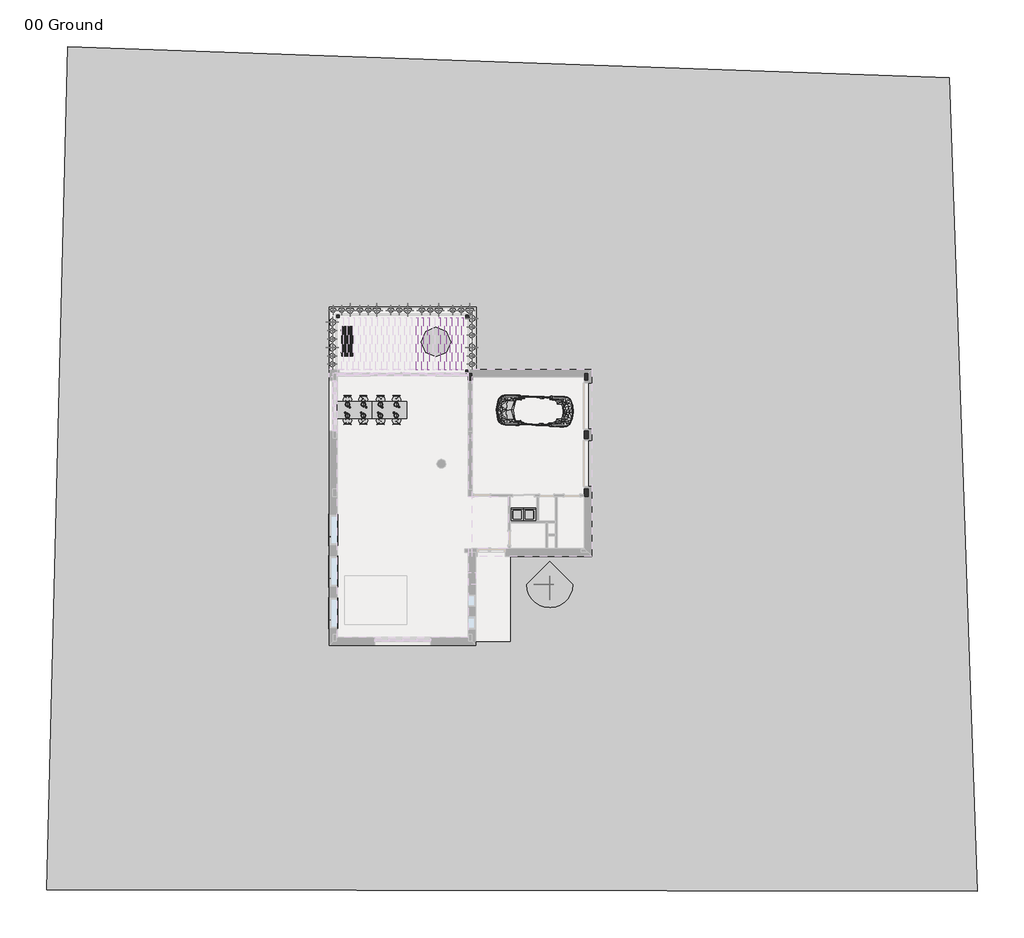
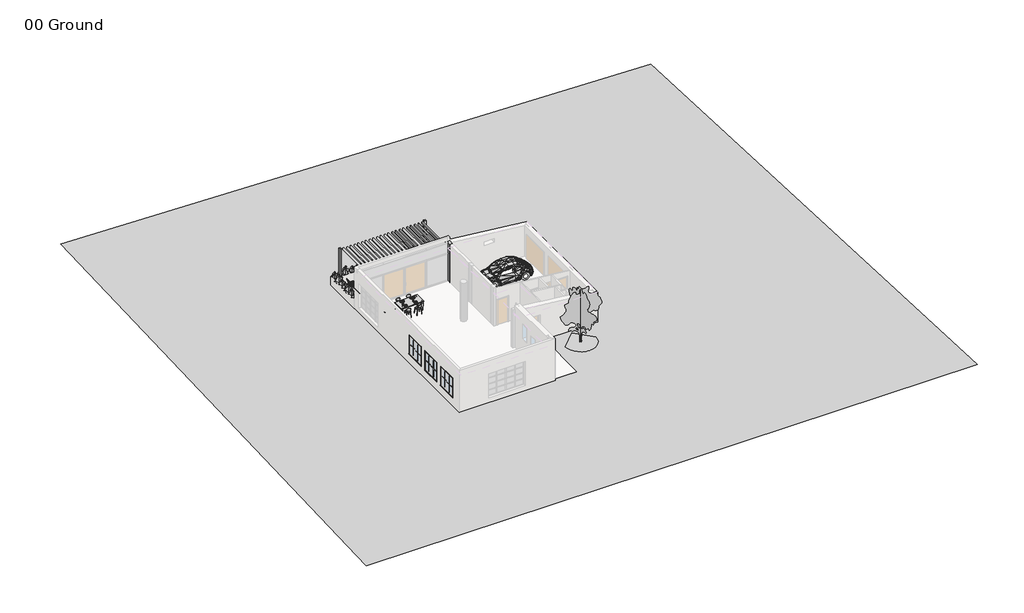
# One storey, part 4 of 4: 32 proxies, 29 geographic elements, 11 furniture elements, 8 beams, 7 columns.
"""IFC4 building model written with IfcOpenShell, lengths in millimetres."""

from ifc_helpers import new_model, si_unit, origin, origin_with_axes, place, context, project, spatial, polyline, outline, extrude, faceted_brep, triangles, transform, mapped, element, save
from components import m_glulam_southern_pine_76x140_5a5c9036, m_muntin_pattern_2x2_m_muntin_pattern_2x2_30659562, m_rpc_beetle_m_rpc_beetle_b6d71803, m_trim_window_exterior_flat_with_sill_22923e22, m_trim_window_interior_flat_picture_frame_2e224720, washer_1_nz_635_x_635_x_890mm_ea8aa6a1, water_glass_water_glass_b6dd9f63, water_glass_water_glass_9b9a4646, white_porcelain_plate_fine_china_plate_a2477348, white_porcelain_plate_fine_china_plate_4e427850, m_glulam_southern_pine_column_127x140_dd4b0262, dining_chair_3_dining_chair_3_7a8d451b, dining_chair_3_dining_chair_3_6df3cbc4, m_table_dining_round_w_chairs_1525mm_diameter_e8096f67, table_dining_01_m_1800_x_900_mm_da953b87, m_rpc_tree_deciduous_japanese_cherry_4_5_meters_cd2ce576, rpc_plant_tropical_9b0843ec, rpc_plant_tropical_418e7fe6, geographic_element_864e469f

model = new_model("IFC4")

# Units and contexts
model_context = context("Model", 3, world=origin())
ifc_project = project(units=[si_unit("LENGTHUNIT", "METRE", prefix="MILLI")], contexts=[model_context])

# Site, building, storey
site = spatial("IfcSite", under=ifc_project)
building = spatial("IfcBuilding", under=site)
storey = spatial("IfcBuildingStorey", under=building, Name="00 Ground", Elevation=0.0)

# Beams
placement = place(None, origin())
m_glulam_southern_pine_76x140_shape = m_glulam_southern_pine_76x140_5a5c9036(model_context)
element("IfcBeam", 1, ObjectType="M_Glulam-Southern Pine : 76X140", at=placement, inside=storey, context=model_context, shape_type="MappedRepresentation", body=[
    mapped(m_glulam_southern_pine_76x140_shape, transform((-1618.8451478, 7837.2898352, 3130.0), x_axis=(0.0, -1.0, 0.0), y_axis=(1.0, 0.0, 0.0), z_axis=(0.0, 0.0, 1.0))),
])
element("IfcBeam", 2, ObjectType="M_Glulam-Southern Pine : 76X140", at=placement, inside=storey, context=model_context, shape_type="MappedRepresentation", body=[
    mapped(m_glulam_southern_pine_76x140_shape, transform((-1915.1494956, 7837.2898352, 3130.0), x_axis=(0.0, -1.0, 0.0), y_axis=(1.0, 0.0, 0.0), z_axis=(0.0, 0.0, 1.0))),
])
element("IfcBeam", 3, ObjectType="M_Glulam-Southern Pine : 76X140", at=placement, inside=storey, context=model_context, shape_type="MappedRepresentation", body=[
    mapped(m_glulam_southern_pine_76x140_shape, transform((-2211.4538434, 7837.2898352, 3130.0), x_axis=(0.0, -1.0, 0.0), y_axis=(1.0, 0.0, 0.0), z_axis=(0.0, 0.0, 1.0))),
])
element("IfcBeam", 4, ObjectType="M_Glulam-Southern Pine : 76X140", at=placement, inside=storey, context=model_context, shape_type="MappedRepresentation", body=[
    mapped(m_glulam_southern_pine_76x140_shape, transform((-2507.7581912, 7837.2898352, 3130.0), x_axis=(0.0, -1.0, 0.0), y_axis=(1.0, 0.0, 0.0), z_axis=(0.0, 0.0, 1.0))),
])
element("IfcBeam", 5, ObjectType="M_Glulam-Southern Pine : 76X140", at=placement, inside=storey, context=model_context, shape_type="MappedRepresentation", body=[
    mapped(m_glulam_southern_pine_76x140_shape, transform((-2804.0625391, 7837.2898352, 3130.0), x_axis=(0.0, -1.0, 0.0), y_axis=(1.0, 0.0, 0.0), z_axis=(0.0, 0.0, 1.0))),
])
element("IfcBeam", 6, ObjectType="M_Glulam-Southern Pine : 76X140", at=placement, inside=storey, context=model_context, shape_type="MappedRepresentation", body=[
    mapped(m_glulam_southern_pine_76x140_shape, transform((-3396.6712347, 7837.2898352, 3130.0), x_axis=(0.0, -1.0, 0.0), y_axis=(1.0, 0.0, 0.0), z_axis=(0.0, 0.0, 1.0))),
])
element("IfcBeam", 7, ObjectType="M_Glulam-Southern Pine : 76X140", at=placement, inside=storey, context=model_context, shape_type="MappedRepresentation", body=[
    mapped(m_glulam_southern_pine_76x140_shape, transform((-3692.9755825, 7837.2898352, 3130.0), x_axis=(0.0, -1.0, 0.0), y_axis=(1.0, 0.0, 0.0), z_axis=(0.0, 0.0, 1.0))),
])
element("IfcBeam", 8, ObjectType="M_Glulam-Southern Pine : 76X140", at=placement, inside=storey, context=model_context, shape_type="MappedRepresentation", body=[
    mapped(m_glulam_southern_pine_76x140_shape, transform((-3989.2799304, 7837.2898352, 3130.0), x_axis=(0.0, -1.0, 0.0), y_axis=(1.0, 0.0, 0.0), z_axis=(0.0, 0.0, 1.0))),
])

# Proxies
element("IfcBuildingElementProxy", 9, Name="Building Element Proxy", at=placement, inside=storey, context=model_context, shape_type="Tessellation", body=[
    triangles([(-23129.6788879, -20391.19953, 0.0), (24993.4581482, -20476.3734009, 0.0), (23545.5046692, 21599.4304321, 0.0), (-22022.4208923, 23217.7316528, 0.0)], [[4, 1, 3], [2, 3, 1]], closed=False),
])
m_muntin_pattern_2x2_m_muntin_pattern_2x2_shape = m_muntin_pattern_2x2_m_muntin_pattern_2x2_30659562(model_context)
element("IfcBuildingElementProxy", 10, Name="M_Muntin Pattern_2x2 : M_Muntin Pattern_2x2", ObjectType="M_Muntin Pattern_2x2 : M_Muntin Pattern_2x2", at=placement, inside=storey, context=model_context, shape_type="MappedRepresentation", body=[
    mapped(m_muntin_pattern_2x2_m_muntin_pattern_2x2_shape, transform((-8453.5657999, -5733.3476648, 882.55), x_axis=(0.0, 1.0, 0.0), y_axis=(-1.0, 0.0, 0.0), z_axis=(0.0, 0.0, 1.0))),
])
element("IfcBuildingElementProxy", 11, Name="M_Muntin Pattern_2x2 : M_Muntin Pattern_2x2", ObjectType="M_Muntin Pattern_2x2 : M_Muntin Pattern_2x2", at=placement, inside=storey, context=model_context, shape_type="MappedRepresentation", body=[
    mapped(m_muntin_pattern_2x2_m_muntin_pattern_2x2_shape, transform((-8498.0157999, -6442.0726648, 882.55), x_axis=(0.0, 1.0, 0.0), y_axis=(-1.0, 0.0, 0.0), z_axis=(0.0, 0.0, 1.0))),
])
element("IfcBuildingElementProxy", 12, Name="M_Muntin Pattern_2x2 : M_Muntin Pattern_2x2", ObjectType="M_Muntin Pattern_2x2 : M_Muntin Pattern_2x2", at=placement, inside=storey, context=model_context, shape_type="MappedRepresentation", body=[
    mapped(m_muntin_pattern_2x2_m_muntin_pattern_2x2_shape, transform((-8453.5657999, -3583.3476648, 882.55), x_axis=(0.0, 1.0, 0.0), y_axis=(-1.0, 0.0, 0.0), z_axis=(0.0, 0.0, 1.0))),
])
element("IfcBuildingElementProxy", 13, Name="M_Muntin Pattern_2x2 : M_Muntin Pattern_2x2", ObjectType="M_Muntin Pattern_2x2 : M_Muntin Pattern_2x2", at=placement, inside=storey, context=model_context, shape_type="MappedRepresentation", body=[
    mapped(m_muntin_pattern_2x2_m_muntin_pattern_2x2_shape, transform((-8498.0157999, -4292.0726648, 882.55), x_axis=(0.0, 1.0, 0.0), y_axis=(-1.0, 0.0, 0.0), z_axis=(0.0, 0.0, 1.0))),
])
element("IfcBuildingElementProxy", 14, Name="M_Muntin Pattern_2x2 : M_Muntin Pattern_2x2", ObjectType="M_Muntin Pattern_2x2 : M_Muntin Pattern_2x2", at=placement, inside=storey, context=model_context, shape_type="MappedRepresentation", body=[
    mapped(m_muntin_pattern_2x2_m_muntin_pattern_2x2_shape, transform((-8453.5657999, -1433.3476648, 882.55), x_axis=(0.0, 1.0, 0.0), y_axis=(-1.0, 0.0, 0.0), z_axis=(0.0, 0.0, 1.0))),
])
element("IfcBuildingElementProxy", 15, Name="M_Muntin Pattern_2x2 : M_Muntin Pattern_2x2", ObjectType="M_Muntin Pattern_2x2 : M_Muntin Pattern_2x2", at=placement, inside=storey, context=model_context, shape_type="MappedRepresentation", body=[
    mapped(m_muntin_pattern_2x2_m_muntin_pattern_2x2_shape, transform((-8498.0157999, -2142.0726648, 882.55), x_axis=(0.0, 1.0, 0.0), y_axis=(-1.0, 0.0, 0.0), z_axis=(0.0, 0.0, 1.0))),
])
m_rpc_beetle_m_rpc_beetle_shape = m_rpc_beetle_m_rpc_beetle_b6d71803(model_context)
element("IfcBuildingElementProxy", 16, Name="M_RPC Beetle : M_RPC Beetle", ObjectType="M_RPC Beetle : M_RPC Beetle", at=placement, inside=storey, context=model_context, shape_type="MappedRepresentation", body=[
    mapped(m_rpc_beetle_m_rpc_beetle_shape, transform((3335.3688929, 4337.8164199, 0.0), x_axis=(0.03176173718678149, 0.9994954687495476, 0.0), y_axis=(-0.9994954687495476, 0.03176173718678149, 0.0), z_axis=(0.0, 0.0, 1.0))),
])
m_trim_window_exterior_flat_with_sill_shape = m_trim_window_exterior_flat_with_sill_22923e22(model_context)
element("IfcBuildingElementProxy", 17, Name="M_Trim-Window-Exterior-Flat : with Sill", ObjectType="M_Trim-Window-Exterior-Flat : with Sill", at=placement, inside=storey, context=model_context, shape_type="MappedRepresentation", body=[
    mapped(m_trim_window_exterior_flat_with_sill_shape, transform((-8507.5407999, -6087.7101648, 2300.0), x_axis=(0.0, -1.0, 0.0), y_axis=(0.0, 0.0, 1.0), z_axis=(-1.0, 0.0, 0.0))),
])
element("IfcBuildingElementProxy", 18, Name="M_Trim-Window-Exterior-Flat : with Sill", ObjectType="M_Trim-Window-Exterior-Flat : with Sill", at=placement, inside=storey, context=model_context, shape_type="MappedRepresentation", body=[
    mapped(m_trim_window_exterior_flat_with_sill_shape, transform((-8507.5407999, -3937.7101648, 2300.0), x_axis=(0.0, -1.0, 0.0), y_axis=(0.0, 0.0, 1.0), z_axis=(-1.0, 0.0, 0.0))),
])
element("IfcBuildingElementProxy", 19, Name="M_Trim-Window-Exterior-Flat : with Sill", ObjectType="M_Trim-Window-Exterior-Flat : with Sill", at=placement, inside=storey, context=model_context, shape_type="MappedRepresentation", body=[
    mapped(m_trim_window_exterior_flat_with_sill_shape, transform((-8507.5407999, -1787.7101648, 2300.0), x_axis=(0.0, -1.0, 0.0), y_axis=(0.0, 0.0, 1.0), z_axis=(-1.0, 0.0, 0.0))),
])
m_trim_window_interior_flat_picture_frame_shape = m_trim_window_interior_flat_picture_frame_2e224720(model_context)
element("IfcBuildingElementProxy", 20, Name="M_Trim-Window-Interior-Flat : Picture Frame", ObjectType="M_Trim-Window-Interior-Flat : Picture Frame", at=placement, inside=storey, context=model_context, shape_type="MappedRepresentation", body=[
    mapped(m_trim_window_interior_flat_picture_frame_shape, transform((-8109.5407999, -6087.7101648, 2300.0), x_axis=(0.0, 1.0, 0.0), y_axis=(0.0, 0.0, 1.0), z_axis=(1.0, 0.0, 0.0))),
])
element("IfcBuildingElementProxy", 21, Name="M_Trim-Window-Interior-Flat : Picture Frame", ObjectType="M_Trim-Window-Interior-Flat : Picture Frame", at=placement, inside=storey, context=model_context, shape_type="MappedRepresentation", body=[
    mapped(m_trim_window_interior_flat_picture_frame_shape, transform((-8109.5407999, -3937.7101648, 2300.0), x_axis=(0.0, 1.0, 0.0), y_axis=(0.0, 0.0, 1.0), z_axis=(1.0, 0.0, 0.0))),
])
element("IfcBuildingElementProxy", 22, Name="M_Trim-Window-Interior-Flat : Picture Frame", ObjectType="M_Trim-Window-Interior-Flat : Picture Frame", at=placement, inside=storey, context=model_context, shape_type="MappedRepresentation", body=[
    mapped(m_trim_window_interior_flat_picture_frame_shape, transform((-8109.5407999, -1787.7101648, 2300.0), x_axis=(0.0, 1.0, 0.0), y_axis=(0.0, 0.0, 1.0), z_axis=(1.0, 0.0, 0.0))),
])
washer_1_nz_635_x_635_x_890mm_shape = washer_1_nz_635_x_635_x_890mm_ea8aa6a1(model_context)
element("IfcBuildingElementProxy", 23, Name="Washer 1 (NZ) : 635 x 635 x 890mm", ObjectType="Washer 1 (NZ) : 635 x 635 x 890mm", at=placement, inside=storey, context=model_context, shape_type="MappedRepresentation", body=[
    mapped(washer_1_nz_635_x_635_x_890mm_shape, transform((802.8947027, -1253.3971499, 0.0), x_axis=(1.0, 0.0, 0.0), y_axis=(0.0, 1.0, 0.0), z_axis=(0.0, 0.0, 1.0))),
])
element("IfcBuildingElementProxy", 24, Name="Washer 1 (NZ) : 635 x 635 x 890mm", ObjectType="Washer 1 (NZ) : 635 x 635 x 890mm", at=placement, inside=storey, context=model_context, shape_type="MappedRepresentation", body=[
    mapped(washer_1_nz_635_x_635_x_890mm_shape, transform((1437.8947027, -1253.3971499, 0.0), x_axis=(1.0, 0.0, 0.0), y_axis=(0.0, 1.0, 0.0), z_axis=(0.0, 0.0, 1.0))),
])
water_glass_water_glass_shape = water_glass_water_glass_b6dd9f63(model_context)
element("IfcBuildingElementProxy", 25, Name="Water Glass : Water Glass", ObjectType="Water Glass : Water Glass", at=placement, inside=storey, context=model_context, shape_type="MappedRepresentation", body=[
    mapped(water_glass_water_glass_shape, transform((-5166.4212773, 4276.4174751, 765.0), x_axis=(0.0, 1.0, 0.0), y_axis=(-1.0, 0.0, 0.0), z_axis=(0.0, 0.0, 1.0))),
])
element("IfcBuildingElementProxy", 26, Name="Water Glass : Water Glass", ObjectType="Water Glass : Water Glass", at=placement, inside=storey, context=model_context, shape_type="MappedRepresentation", body=[
    mapped(water_glass_water_glass_shape, transform((-5986.4212773, 4276.4174751, 765.0), x_axis=(0.0, 1.0, 0.0), y_axis=(-1.0, 0.0, 0.0), z_axis=(0.0, 0.0, 1.0))),
])
element("IfcBuildingElementProxy", 27, Name="Water Glass : Water Glass", ObjectType="Water Glass : Water Glass", at=placement, inside=storey, context=model_context, shape_type="MappedRepresentation", body=[
    mapped(water_glass_water_glass_shape, transform((-6866.4212773, 4276.4174751, 765.0), x_axis=(0.0, 1.0, 0.0), y_axis=(-1.0, 0.0, 0.0), z_axis=(0.0, 0.0, 1.0))),
])
element("IfcBuildingElementProxy", 28, Name="Water Glass : Water Glass", ObjectType="Water Glass : Water Glass", at=placement, inside=storey, context=model_context, shape_type="MappedRepresentation", body=[
    mapped(water_glass_water_glass_shape, transform((-7686.4212773, 4276.4174751, 765.0), x_axis=(0.0, 1.0, 0.0), y_axis=(-1.0, 0.0, 0.0), z_axis=(0.0, 0.0, 1.0))),
])
water_glass_water_glass_2_shape = water_glass_water_glass_9b9a4646(model_context)
element("IfcBuildingElementProxy", 29, Name="Water Glass : Water Glass", ObjectType="Water Glass : Water Glass", at=placement, inside=storey, context=model_context, shape_type="MappedRepresentation", body=[
    mapped(water_glass_water_glass_2_shape, transform((-4907.6566656, 4576.4174751, 765.0), x_axis=(0.0, -1.0, 0.0), y_axis=(1.0, 0.0, 0.0), z_axis=(0.0, 0.0, 1.0))),
])
element("IfcBuildingElementProxy", 30, Name="Water Glass : Water Glass", ObjectType="Water Glass : Water Glass", at=placement, inside=storey, context=model_context, shape_type="MappedRepresentation", body=[
    mapped(water_glass_water_glass_2_shape, transform((-5767.6566656, 4556.4174751, 765.0), x_axis=(0.0, -1.0, 0.0), y_axis=(1.0, 0.0, 0.0), z_axis=(0.0, 0.0, 1.0))),
])
element("IfcBuildingElementProxy", 31, Name="Water Glass : Water Glass", ObjectType="Water Glass : Water Glass", at=placement, inside=storey, context=model_context, shape_type="MappedRepresentation", body=[
    mapped(water_glass_water_glass_2_shape, transform((-6607.6566656, 4556.4174751, 765.0), x_axis=(0.0, -1.0, 0.0), y_axis=(1.0, 0.0, 0.0), z_axis=(0.0, 0.0, 1.0))),
])
element("IfcBuildingElementProxy", 32, Name="Water Glass : Water Glass", ObjectType="Water Glass : Water Glass", at=placement, inside=storey, context=model_context, shape_type="MappedRepresentation", body=[
    mapped(water_glass_water_glass_2_shape, transform((-7447.6566656, 4556.4174751, 765.0), x_axis=(0.0, -1.0, 0.0), y_axis=(1.0, 0.0, 0.0), z_axis=(0.0, 0.0, 1.0))),
])
white_porcelain_plate_fine_china_plate_shape = white_porcelain_plate_fine_china_plate_a2477348(model_context)
element("IfcBuildingElementProxy", 33, Name="White Porcelain Plate : Fine China - Plate", ObjectType="White Porcelain Plate : Fine China - Plate", at=placement, inside=storey, context=model_context, shape_type="MappedRepresentation", body=[
    mapped(white_porcelain_plate_fine_china_plate_shape, transform((-5052.8302229, 4126.4174751, 765.0), x_axis=(0.0, 1.0, 0.0), y_axis=(-1.0, 0.0, 0.0), z_axis=(0.0, 0.0, 1.0))),
])
element("IfcBuildingElementProxy", 34, Name="White Porcelain Plate : Fine China - Plate", ObjectType="White Porcelain Plate : Fine China - Plate", at=placement, inside=storey, context=model_context, shape_type="MappedRepresentation", body=[
    mapped(white_porcelain_plate_fine_china_plate_shape, transform((-5872.8302229, 4126.4174751, 765.0), x_axis=(0.0, 1.0, 0.0), y_axis=(-1.0, 0.0, 0.0), z_axis=(0.0, 0.0, 1.0))),
])
element("IfcBuildingElementProxy", 35, Name="White Porcelain Plate : Fine China - Plate", ObjectType="White Porcelain Plate : Fine China - Plate", at=placement, inside=storey, context=model_context, shape_type="MappedRepresentation", body=[
    mapped(white_porcelain_plate_fine_china_plate_shape, transform((-6752.8302229, 4126.4174751, 765.0), x_axis=(0.0, 1.0, 0.0), y_axis=(-1.0, 0.0, 0.0), z_axis=(0.0, 0.0, 1.0))),
])
element("IfcBuildingElementProxy", 36, Name="White Porcelain Plate : Fine China - Plate", ObjectType="White Porcelain Plate : Fine China - Plate", at=placement, inside=storey, context=model_context, shape_type="MappedRepresentation", body=[
    mapped(white_porcelain_plate_fine_china_plate_shape, transform((-7572.8302229, 4126.4174751, 765.0), x_axis=(0.0, 1.0, 0.0), y_axis=(-1.0, 0.0, 0.0), z_axis=(0.0, 0.0, 1.0))),
])
white_porcelain_plate_fine_china_plate_2_shape = white_porcelain_plate_fine_china_plate_4e427850(model_context)
element("IfcBuildingElementProxy", 37, Name="White Porcelain Plate : Fine China - Plate", ObjectType="White Porcelain Plate : Fine China - Plate", at=placement, inside=storey, context=model_context, shape_type="MappedRepresentation", body=[
    mapped(white_porcelain_plate_fine_china_plate_2_shape, transform((-5052.8302229, 4706.4174751, 765.0), x_axis=(0.0, -1.0, 0.0), y_axis=(1.0, 0.0, 0.0), z_axis=(0.0, 0.0, 1.0))),
])
element("IfcBuildingElementProxy", 38, Name="White Porcelain Plate : Fine China - Plate", ObjectType="White Porcelain Plate : Fine China - Plate", at=placement, inside=storey, context=model_context, shape_type="MappedRepresentation", body=[
    mapped(white_porcelain_plate_fine_china_plate_2_shape, transform((-5872.8302229, 4706.4174751, 765.0), x_axis=(0.0, -1.0, 0.0), y_axis=(1.0, 0.0, 0.0), z_axis=(0.0, 0.0, 1.0))),
])
element("IfcBuildingElementProxy", 39, Name="White Porcelain Plate : Fine China - Plate", ObjectType="White Porcelain Plate : Fine China - Plate", at=placement, inside=storey, context=model_context, shape_type="MappedRepresentation", body=[
    mapped(white_porcelain_plate_fine_china_plate_2_shape, transform((-6752.8302229, 4706.4174751, 765.0), x_axis=(0.0, -1.0, 0.0), y_axis=(1.0, 0.0, 0.0), z_axis=(0.0, 0.0, 1.0))),
])
element("IfcBuildingElementProxy", 40, Name="White Porcelain Plate : Fine China - Plate", ObjectType="White Porcelain Plate : Fine China - Plate", at=placement, inside=storey, context=model_context, shape_type="MappedRepresentation", body=[
    mapped(white_porcelain_plate_fine_china_plate_2_shape, transform((-7572.8302229, 4706.4174751, 765.0), x_axis=(0.0, -1.0, 0.0), y_axis=(1.0, 0.0, 0.0), z_axis=(0.0, 0.0, 1.0))),
])

# Columns
element("IfcColumn", 41, ObjectType="M_Concrete-Rectangular-Column : 200 x 400mm", at=placement, inside=storey, context=model_context, shape_type="Brep", body=[
    faceted_brep([(4877.4592001, 6337.2898352, 0.0), (4877.4592001, 5937.2898352, 0.0), (4677.4592001, 5937.2898352, 0.0), (4677.4592001, 6137.2898352, 0.0), (4677.4592001, 6337.2898352, 0.0), (4877.4592001, 6337.2898352, 2519.7413096), (4877.4592001, 5937.2898352, 2519.7413096), (4677.4592001, 5937.2898352, 2519.7413096), (4677.4592001, 6137.2898352, 2519.7413096), (4677.4592001, 6337.2898352, 2519.7413096)], [[[0, 1, 2, 3, 4]], [[5, 6, 1, 0]], [[6, 7, 2, 1]], [[7, 8, 9, 4, 3, 2]], [[9, 5, 0, 4]], [[5, 9, 8, 7, 6]]]),
])
element("IfcColumn", 42, ObjectType="M_Concrete-Rectangular-Column : 200 x 400mm", at=placement, inside=storey, context=model_context, shape_type="Brep", body=[
    faceted_brep([(-1122.5407999, 6337.2898352, 0.0), (-1122.5407999, 6124.2898352, 0.0), (-1122.5407999, 5937.2898352, 0.0), (-1322.5407999, 5937.2898352, 0.0), (-1322.5407999, 6337.2898352, 0.0), (-1122.5407999, 6337.2898352, 3160.0), (-1122.5407999, 6337.2898352, 3200.0), (-1122.5407999, 5937.2898352, 3200.0), (-1322.5407999, 5937.2898352, 3200.0), (-1322.5407999, 6337.2898352, 3200.0), (-1300.0407999, 6337.2898352, 3200.0)], [[[0, 1, 2, 3, 4]], [[2, 1, 0, 5, 6, 7]], [[3, 2, 7, 8]], [[4, 3, 8, 9]], [[0, 4, 9, 10, 6, 5]], [[7, 6, 10, 9, 8]]]),
])
element("IfcColumn", 43, ObjectType="M_Concrete-Rectangular-Column : 200 x 400mm", at=placement, inside=storey, context=model_context, shape_type="SweptSolid", body=[
    extrude(outline(polyline([(4877.4592001, 3337.2898352), (4877.4592001, 2937.2898352), (4677.4592001, 2937.2898352), (4677.4592001, 3337.2898352), (4877.4592001, 3337.2898352)])), origin_with_axes(), (0.0, 0.0, 1.0), 2519.7413096),
])
element("IfcColumn", 44, ObjectType="M_Concrete-Rectangular-Column : 200 x 400mm", at=placement, inside=storey, context=model_context, shape_type="SweptSolid", body=[
    extrude(outline(polyline([(4677.4592001, -62.7101648), (4677.4592001, 337.2898352), (4877.4592001, 337.2898352), (4877.4592001, -62.7101648), (4677.4592001, -62.7101648)])), origin_with_axes(), (0.0, 0.0, 1.0), 2519.7413096),
])
m_glulam_southern_pine_column_127x140_shape = m_glulam_southern_pine_column_127x140_dd4b0262(model_context)
element("IfcColumn", 45, ObjectType="M_Glulam-Southern Pine-Column : 127x140", at=placement, inside=storey, context=model_context, shape_type="MappedRepresentation", body=[
    mapped(m_glulam_southern_pine_column_127x140_shape, transform((-8074.0407999, 9267.2898352, 0.0), x_axis=(1.0, 0.0, 0.0), y_axis=(0.0, 1.0, 0.0), z_axis=(0.0, 0.0, 1.0))),
])
element("IfcColumn", 46, ObjectType="M_Glulam-Southern Pine-Column : 127x140", at=placement, inside=storey, context=model_context, shape_type="MappedRepresentation", body=[
    mapped(m_glulam_southern_pine_column_127x140_shape, transform((-1386.0407999, 9267.2898352, 0.0), x_axis=(1.0, 0.0, 0.0), y_axis=(0.0, 1.0, 0.0), z_axis=(0.0, 0.0, 1.0))),
])
element("IfcColumn", 47, ObjectType="M_Glulam-Southern Pine-Column : 127x140", at=placement, inside=storey, context=model_context, shape_type="MappedRepresentation", body=[
    mapped(m_glulam_southern_pine_column_127x140_shape, transform((-1386.0407999, 6407.2898352, 0.0), x_axis=(1.0, 0.0, 0.0), y_axis=(0.0, 1.0, 0.0), z_axis=(0.0, 0.0, 1.0))),
])

# Furniture
dining_chair_3_dining_chair_3_shape = dining_chair_3_dining_chair_3_7a8d451b(model_context)
element("IfcFurniture", 48, ObjectType="Dining Chair (3) : Dining Chair (3)", at=placement, inside=storey, context=model_context, shape_type="MappedRepresentation", body=[
    mapped(dining_chair_3_dining_chair_3_shape, transform((-7766.6538222, 3657.4394675, 15.0), x_axis=(0.0, 1.0, 0.0), y_axis=(-1.0, 0.0, 0.0), z_axis=(0.0, 0.0, 1.0))),
])
element("IfcFurniture", 49, ObjectType="Dining Chair (3) : Dining Chair (3)", at=placement, inside=storey, context=model_context, shape_type="MappedRepresentation", body=[
    mapped(dining_chair_3_dining_chair_3_shape, transform((-6946.6538222, 3657.4394675, 15.0), x_axis=(0.0, 1.0, 0.0), y_axis=(-1.0, 0.0, 0.0), z_axis=(0.0, 0.0, 1.0))),
])
element("IfcFurniture", 50, ObjectType="Dining Chair (3) : Dining Chair (3)", at=placement, inside=storey, context=model_context, shape_type="MappedRepresentation", body=[
    mapped(dining_chair_3_dining_chair_3_shape, transform((-4848.659509, 5175.3954828, 15.0), x_axis=(0.0, -1.0, 0.0), y_axis=(1.0, 0.0, 0.0), z_axis=(0.0, 0.0, 1.0))),
])
element("IfcFurniture", 51, ObjectType="Dining Chair (3) : Dining Chair (3)", at=placement, inside=storey, context=model_context, shape_type="MappedRepresentation", body=[
    mapped(dining_chair_3_dining_chair_3_shape, transform((-5668.659509, 5175.3954828, 15.0), x_axis=(0.0, -1.0, 0.0), y_axis=(1.0, 0.0, 0.0), z_axis=(0.0, 0.0, 1.0))),
])
dining_chair_3_dining_chair_3_2_shape = dining_chair_3_dining_chair_3_6df3cbc4(model_context)
element("IfcFurniture", 52, ObjectType="Dining Chair (3) : Dining Chair (3)", at=placement, inside=storey, context=model_context, shape_type="MappedRepresentation", body=[
    mapped(dining_chair_3_dining_chair_3_2_shape, transform((-7766.6538222, 5175.3954828, 15.0), x_axis=(0.0, -1.0, 0.0), y_axis=(1.0, 0.0, 0.0), z_axis=(0.0, 0.0, 1.0))),
])
element("IfcFurniture", 53, ObjectType="Dining Chair (3) : Dining Chair (3)", at=placement, inside=storey, context=model_context, shape_type="MappedRepresentation", body=[
    mapped(dining_chair_3_dining_chair_3_2_shape, transform((-6946.6538222, 5175.3954828, 15.0), x_axis=(0.0, -1.0, 0.0), y_axis=(1.0, 0.0, 0.0), z_axis=(0.0, 0.0, 1.0))),
])
element("IfcFurniture", 54, ObjectType="Dining Chair (3) : Dining Chair (3)", at=placement, inside=storey, context=model_context, shape_type="MappedRepresentation", body=[
    mapped(dining_chair_3_dining_chair_3_2_shape, transform((-4848.659509, 3657.4394675, 15.0), x_axis=(0.0, 1.0, 0.0), y_axis=(-1.0, 0.0, 0.0), z_axis=(0.0, 0.0, 1.0))),
])
element("IfcFurniture", 55, ObjectType="Dining Chair (3) : Dining Chair (3)", at=placement, inside=storey, context=model_context, shape_type="MappedRepresentation", body=[
    mapped(dining_chair_3_dining_chair_3_2_shape, transform((-5668.659509, 3657.4394675, 15.0), x_axis=(0.0, 1.0, 0.0), y_axis=(-1.0, 0.0, 0.0), z_axis=(0.0, 0.0, 1.0))),
])
m_table_dining_round_w_chairs_1525mm_diameter_shape = m_table_dining_round_w_chairs_1525mm_diameter_e8096f67(model_context)
element("IfcFurniture", 56, ObjectType="M_Table-Dining Round w Chairs : 1525mm Diameter", at=placement, inside=storey, context=model_context, shape_type="MappedRepresentation", body=[
    mapped(m_table_dining_round_w_chairs_1525mm_diameter_shape, transform((-3101.2227671, 8117.7185238, 40.0), x_axis=(1.0, 0.0, 0.0), y_axis=(0.0, 1.0, 0.0), z_axis=(0.0, 0.0, 1.0))),
])
table_dining_01_m_1800_x_900_mm_shape = table_dining_01_m_1800_x_900_mm_da953b87(model_context)
element("IfcFurniture", 57, ObjectType="Table-Dining 01 (M) : 1800 x 900 mm", at=placement, inside=storey, context=model_context, shape_type="MappedRepresentation", body=[
    mapped(table_dining_01_m_1800_x_900_mm_shape, transform((-5407.6566656, 4416.4174751, 15.0), x_axis=(-1.0, 0.0, 0.0), y_axis=(0.0, -1.0, 0.0), z_axis=(0.0, 0.0, 1.0))),
])
element("IfcFurniture", 58, ObjectType="Table-Dining 01 (M) : 1800 x 900 mm", at=placement, inside=storey, context=model_context, shape_type="MappedRepresentation", body=[
    mapped(table_dining_01_m_1800_x_900_mm_shape, transform((-7207.6566656, 4416.4174751, 15.0), x_axis=(-1.0, 0.0, 0.0), y_axis=(0.0, -1.0, 0.0), z_axis=(0.0, 0.0, 1.0))),
])

# Geographic elements
m_rpc_tree_deciduous_japanese_cherry_4_5_meters_shape = m_rpc_tree_deciduous_japanese_cherry_4_5_meters_cd2ce576(model_context)
element("IfcGeographicElement", 59, ObjectType="M_RPC Tree - Deciduous : Japanese Cherry - 4.5 Meters", at=placement, inside=storey, context=model_context, shape_type="MappedRepresentation", body=[
    mapped(m_rpc_tree_deciduous_japanese_cherry_4_5_meters_shape, transform((2882.4592001, -4607.7101648, 0.0), x_axis=(1.0, 0.0, 0.0), y_axis=(0.0, 1.0, 0.0), z_axis=(0.0, 0.0, 1.0))),
])
rpc_plant_tropical_shape = rpc_plant_tropical_9b0843ec(model_context)
element("IfcGeographicElement", 60, ObjectType="RPC Plant - Tropical : Crane Lily - 0.9 Meters", at=placement, inside=storey, context=model_context, shape_type="MappedRepresentation", body=[
    mapped(rpc_plant_tropical_shape, transform((-2129.8179507, 9567.6039675, 655.0), x_axis=(-1.0, 0.0, 0.0), y_axis=(0.0, -1.0, 0.0), z_axis=(0.0, 0.0, 1.0))),
])
element("IfcGeographicElement", 61, ObjectType="RPC Plant - Tropical : Crane Lily - 0.9 Meters", at=placement, inside=storey, context=model_context, shape_type="MappedRepresentation", body=[
    mapped(rpc_plant_tropical_shape, transform((-1693.7823765, 9567.6039675, 655.0), x_axis=(-1.0, 0.0, 0.0), y_axis=(0.0, -1.0, 0.0), z_axis=(0.0, 0.0, 1.0))),
])
element("IfcGeographicElement", 62, ObjectType="RPC Plant - Tropical : Crane Lily - 0.9 Meters", at=placement, inside=storey, context=model_context, shape_type="MappedRepresentation", body=[
    mapped(rpc_plant_tropical_shape, transform((-3729.8179507, 9567.6039675, 655.0), x_axis=(-1.0, 0.0, 0.0), y_axis=(0.0, -1.0, 0.0), z_axis=(0.0, 0.0, 1.0))),
])
element("IfcGeographicElement", 63, ObjectType="RPC Plant - Tropical : Crane Lily - 0.9 Meters", at=placement, inside=storey, context=model_context, shape_type="MappedRepresentation", body=[
    mapped(rpc_plant_tropical_shape, transform((-3293.7823765, 9567.6039675, 655.0), x_axis=(-1.0, 0.0, 0.0), y_axis=(0.0, -1.0, 0.0), z_axis=(0.0, 0.0, 1.0))),
])
element("IfcGeographicElement", 64, ObjectType="RPC Plant - Tropical : Crane Lily - 0.9 Meters", at=placement, inside=storey, context=model_context, shape_type="MappedRepresentation", body=[
    mapped(rpc_plant_tropical_shape, transform((-5329.8179507, 9567.6039675, 655.0), x_axis=(-1.0, 0.0, 0.0), y_axis=(0.0, -1.0, 0.0), z_axis=(0.0, 0.0, 1.0))),
])
element("IfcGeographicElement", 65, ObjectType="RPC Plant - Tropical : Crane Lily - 0.9 Meters", at=placement, inside=storey, context=model_context, shape_type="MappedRepresentation", body=[
    mapped(rpc_plant_tropical_shape, transform((-4893.7823765, 9567.6039675, 655.0), x_axis=(-1.0, 0.0, 0.0), y_axis=(0.0, -1.0, 0.0), z_axis=(0.0, 0.0, 1.0))),
])
element("IfcGeographicElement", 66, ObjectType="RPC Plant - Tropical : Crane Lily - 0.9 Meters", at=placement, inside=storey, context=model_context, shape_type="MappedRepresentation", body=[
    mapped(rpc_plant_tropical_shape, transform((-6929.8179507, 9567.6039675, 655.0), x_axis=(-1.0, 0.0, 0.0), y_axis=(0.0, -1.0, 0.0), z_axis=(0.0, 0.0, 1.0))),
])
element("IfcGeographicElement", 67, ObjectType="RPC Plant - Tropical : Crane Lily - 0.9 Meters", at=placement, inside=storey, context=model_context, shape_type="MappedRepresentation", body=[
    mapped(rpc_plant_tropical_shape, transform((-6493.7823765, 9567.6039675, 655.0), x_axis=(-1.0, 0.0, 0.0), y_axis=(0.0, -1.0, 0.0), z_axis=(0.0, 0.0, 1.0))),
])
element("IfcGeographicElement", 68, ObjectType="RPC Plant - Tropical : Crane Lily - 0.9 Meters", at=placement, inside=storey, context=model_context, shape_type="MappedRepresentation", body=[
    mapped(rpc_plant_tropical_shape, transform((-8311.2459151, 9567.6039675, 655.0), x_axis=(-1.0, 0.0, 0.0), y_axis=(0.0, -1.0, 0.0), z_axis=(0.0, 0.0, 1.0))),
])
element("IfcGeographicElement", 69, ObjectType="RPC Plant - Tropical : Crane Lily - 0.9 Meters", at=placement, inside=storey, context=model_context, shape_type="MappedRepresentation", body=[
    mapped(rpc_plant_tropical_shape, transform((-7875.2103409, 9567.6039675, 655.0), x_axis=(-1.0, 0.0, 0.0), y_axis=(0.0, -1.0, 0.0), z_axis=(0.0, 0.0, 1.0))),
])
element("IfcGeographicElement", 70, ObjectType="RPC Plant - Tropical : Crane Lily - 0.9 Meters", at=placement, inside=storey, context=model_context, shape_type="MappedRepresentation", body=[
    mapped(rpc_plant_tropical_shape, transform((-8332.1761013, 8083.3787359, 655.0), x_axis=(0.0, -1.0, 0.0), y_axis=(1.0, 0.0, 0.0), z_axis=(0.0, 0.0, 1.0))),
])
element("IfcGeographicElement", 71, ObjectType="RPC Plant - Tropical : Crane Lily - 0.9 Meters", at=placement, inside=storey, context=model_context, shape_type="MappedRepresentation", body=[
    mapped(rpc_plant_tropical_shape, transform((-8332.1761013, 8519.4143101, 655.0), x_axis=(0.0, -1.0, 0.0), y_axis=(1.0, 0.0, 0.0), z_axis=(0.0, 0.0, 1.0))),
])
element("IfcGeographicElement", 72, ObjectType="RPC Plant - Tropical : Crane Lily - 0.9 Meters", at=placement, inside=storey, context=model_context, shape_type="MappedRepresentation", body=[
    mapped(rpc_plant_tropical_shape, transform((-8332.1761013, 6783.3787359, 655.0), x_axis=(0.0, -1.0, 0.0), y_axis=(1.0, 0.0, 0.0), z_axis=(0.0, 0.0, 1.0))),
])
element("IfcGeographicElement", 73, ObjectType="RPC Plant - Tropical : Crane Lily - 0.9 Meters", at=placement, inside=storey, context=model_context, shape_type="MappedRepresentation", body=[
    mapped(rpc_plant_tropical_shape, transform((-8332.1761013, 7219.4143101, 655.0), x_axis=(0.0, -1.0, 0.0), y_axis=(1.0, 0.0, 0.0), z_axis=(0.0, 0.0, 1.0))),
])
element("IfcGeographicElement", 74, ObjectType="RPC Plant - Tropical : Crane Lily - 0.9 Meters", at=placement, inside=storey, context=model_context, shape_type="MappedRepresentation", body=[
    mapped(rpc_plant_tropical_shape, transform((-1118.5372935, 6783.3787359, 655.0), x_axis=(0.0, -1.0, 0.0), y_axis=(1.0, 0.0, 0.0), z_axis=(0.0, 0.0, 1.0))),
])
element("IfcGeographicElement", 75, ObjectType="RPC Plant - Tropical : Crane Lily - 0.9 Meters", at=placement, inside=storey, context=model_context, shape_type="MappedRepresentation", body=[
    mapped(rpc_plant_tropical_shape, transform((-1118.5372935, 7219.4143101, 655.0), x_axis=(0.0, -1.0, 0.0), y_axis=(1.0, 0.0, 0.0), z_axis=(0.0, 0.0, 1.0))),
])
element("IfcGeographicElement", 76, ObjectType="RPC Plant - Tropical : Crane Lily - 0.9 Meters", at=placement, inside=storey, context=model_context, shape_type="MappedRepresentation", body=[
    mapped(rpc_plant_tropical_shape, transform((-1118.5372935, 8283.3787359, 655.0), x_axis=(0.0, -1.0, 0.0), y_axis=(1.0, 0.0, 0.0), z_axis=(0.0, 0.0, 1.0))),
])
element("IfcGeographicElement", 77, ObjectType="RPC Plant - Tropical : Crane Lily - 0.9 Meters", at=placement, inside=storey, context=model_context, shape_type="MappedRepresentation", body=[
    mapped(rpc_plant_tropical_shape, transform((-1118.5372935, 8719.4143101, 655.0), x_axis=(0.0, -1.0, 0.0), y_axis=(1.0, 0.0, 0.0), z_axis=(0.0, 0.0, 1.0))),
])
rpc_plant_tropical_2_shape = rpc_plant_tropical_418e7fe6(model_context)
element("IfcGeographicElement", 78, ObjectType="RPC Plant - Tropical : Crane Lily - 0.9 Meters 2", at=placement, inside=storey, context=model_context, shape_type="MappedRepresentation", body=[
    mapped(rpc_plant_tropical_2_shape, transform((-1257.7468023, 9567.6039675, 655.0), x_axis=(-1.0, 0.0, 0.0), y_axis=(0.0, -1.0, 0.0), z_axis=(0.0, 0.0, 1.0))),
])
element("IfcGeographicElement", 79, ObjectType="RPC Plant - Tropical : Crane Lily - 0.9 Meters 2", at=placement, inside=storey, context=model_context, shape_type="MappedRepresentation", body=[
    mapped(rpc_plant_tropical_2_shape, transform((-2857.7468023, 9567.6039675, 655.0), x_axis=(-1.0, 0.0, 0.0), y_axis=(0.0, -1.0, 0.0), z_axis=(0.0, 0.0, 1.0))),
])
element("IfcGeographicElement", 80, ObjectType="RPC Plant - Tropical : Crane Lily - 0.9 Meters 2", at=placement, inside=storey, context=model_context, shape_type="MappedRepresentation", body=[
    mapped(rpc_plant_tropical_2_shape, transform((-4457.7468023, 9567.6039675, 655.0), x_axis=(-1.0, 0.0, 0.0), y_axis=(0.0, -1.0, 0.0), z_axis=(0.0, 0.0, 1.0))),
])
element("IfcGeographicElement", 81, ObjectType="RPC Plant - Tropical : Crane Lily - 0.9 Meters 2", at=placement, inside=storey, context=model_context, shape_type="MappedRepresentation", body=[
    mapped(rpc_plant_tropical_2_shape, transform((-6057.7468023, 9567.6039675, 655.0), x_axis=(-1.0, 0.0, 0.0), y_axis=(0.0, -1.0, 0.0), z_axis=(0.0, 0.0, 1.0))),
])
element("IfcGeographicElement", 82, ObjectType="RPC Plant - Tropical : Crane Lily - 0.9 Meters 2", at=placement, inside=storey, context=model_context, shape_type="MappedRepresentation", body=[
    mapped(rpc_plant_tropical_2_shape, transform((-7439.1747668, 9567.6039675, 655.0), x_axis=(-1.0, 0.0, 0.0), y_axis=(0.0, -1.0, 0.0), z_axis=(0.0, 0.0, 1.0))),
])
element("IfcGeographicElement", 83, ObjectType="RPC Plant - Tropical : Crane Lily - 0.9 Meters 2", at=placement, inside=storey, context=model_context, shape_type="MappedRepresentation", body=[
    mapped(rpc_plant_tropical_2_shape, transform((-8332.1761013, 8955.4498843, 655.0), x_axis=(0.0, -1.0, 0.0), y_axis=(1.0, 0.0, 0.0), z_axis=(0.0, 0.0, 1.0))),
])
element("IfcGeographicElement", 84, ObjectType="RPC Plant - Tropical : Crane Lily - 0.9 Meters 2", at=placement, inside=storey, context=model_context, shape_type="MappedRepresentation", body=[
    mapped(rpc_plant_tropical_2_shape, transform((-8332.1761013, 7655.4498843, 655.0), x_axis=(0.0, -1.0, 0.0), y_axis=(1.0, 0.0, 0.0), z_axis=(0.0, 0.0, 1.0))),
])
element("IfcGeographicElement", 85, ObjectType="RPC Plant - Tropical : Crane Lily - 0.9 Meters 2", at=placement, inside=storey, context=model_context, shape_type="MappedRepresentation", body=[
    mapped(rpc_plant_tropical_2_shape, transform((-1118.5372935, 7655.4498843, 655.0), x_axis=(0.0, -1.0, 0.0), y_axis=(1.0, 0.0, 0.0), z_axis=(0.0, 0.0, 1.0))),
])
element("IfcGeographicElement", 86, ObjectType="RPC Plant - Tropical : Crane Lily - 0.9 Meters 2", at=placement, inside=storey, context=model_context, shape_type="MappedRepresentation", body=[
    mapped(rpc_plant_tropical_2_shape, transform((-1118.5372935, 9155.4498843, 655.0), x_axis=(0.0, -1.0, 0.0), y_axis=(1.0, 0.0, 0.0), z_axis=(0.0, 0.0, 1.0))),
])
geographic_element_shape = geographic_element_864e469f(model_context)
element("IfcGeographicElement", 87, ObjectType="Typical_outdoor_park_bench_5387 : 72\"", at=placement, inside=storey, context=model_context, shape_type="MappedRepresentation", body=[
    mapped(geographic_element_shape, transform((-7609.5407999, 7808.5537022, 80.0), x_axis=(0.0, 1.0, 0.0), y_axis=(-1.0, 0.0, 0.0), z_axis=(0.0, 0.0, 1.0))),
])

save(model, "model.ifc")
